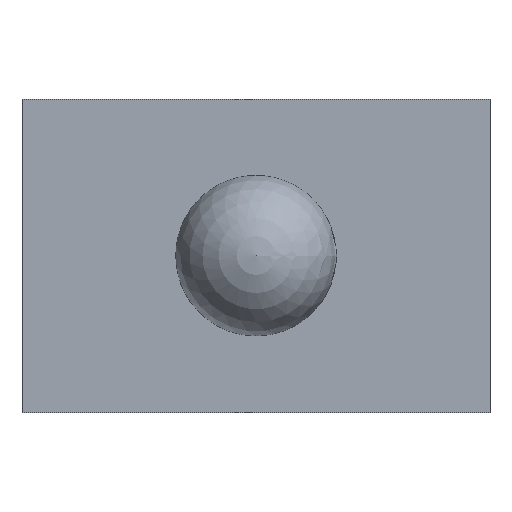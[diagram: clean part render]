
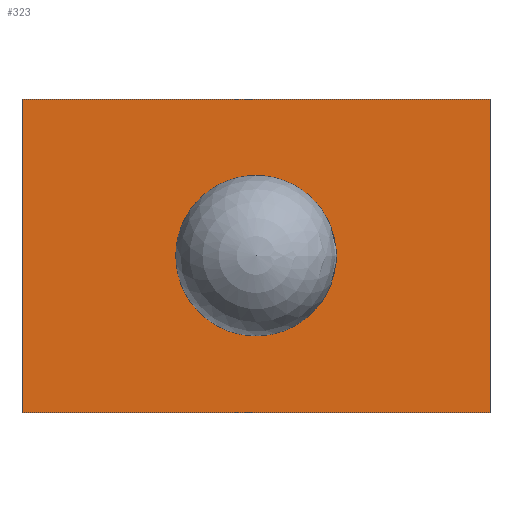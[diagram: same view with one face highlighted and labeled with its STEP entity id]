
A CAD part, top view. The second image highlights one B-rep face of the part: STEP entity #323.
In plain terms, the highlighted planar face has unit normal (0, 0, 1).
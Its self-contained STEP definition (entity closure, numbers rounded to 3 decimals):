
#253 = CYLINDRICAL_SURFACE('',#254,5.5);
#254 = AXIS2_PLACEMENT_3D('',#255,#256,#257);
#255 = CARTESIAN_POINT('',(0.,0.,-1.));
#256 = DIRECTION('',(0.,0.,1.));
#257 = DIRECTION('',(1.,0.,0.));
#269 = VERTEX_POINT('',#270);
#270 = CARTESIAN_POINT('',(5.5,0.,-11.));
#293 = EDGE_CURVE('',#269,#269,#294,.T.);
#294 = SURFACE_CURVE('',#295,(#300,#307),.PCURVE_S1.);
#295 = CIRCLE('',#296,5.5);
#296 = AXIS2_PLACEMENT_3D('',#297,#298,#299);
#297 = CARTESIAN_POINT('',(0.,0.,-11.));
#298 = DIRECTION('',(0.,0.,-1.));
#299 = DIRECTION('',(1.,0.,0.));
#300 = PCURVE('',#253,#301);
#301 = DEFINITIONAL_REPRESENTATION('',(#302),#306);
#302 = LINE('',#303,#304);
#303 = CARTESIAN_POINT('',(-0.,-10.));
#304 = VECTOR('',#305,1.);
#305 = DIRECTION('',(-1.,0.));
#306 = ( GEOMETRIC_REPRESENTATION_CONTEXT(2) 
PARAMETRIC_REPRESENTATION_CONTEXT() REPRESENTATION_CONTEXT('2D SPACE',''
  ) );
#307 = PCURVE('',#308,#313);
#308 = PLANE('',#309);
#309 = AXIS2_PLACEMENT_3D('',#310,#311,#312);
#310 = CARTESIAN_POINT('',(0.,0.,-11.));
#311 = DIRECTION('',(0.,0.,1.));
#312 = DIRECTION('',(1.,0.,0.));
#313 = DEFINITIONAL_REPRESENTATION('',(#314),#322);
#314 = ( BOUNDED_CURVE() B_SPLINE_CURVE(2,(#315,#316,#317,#318,#319,#320
,#321),.UNSPECIFIED.,.F.,.F.) B_SPLINE_CURVE_WITH_KNOTS((1,2,2,2,2,1),(
    -2.094,0.,2.094,4.189,6.283,
8.378),.UNSPECIFIED.) CURVE() GEOMETRIC_REPRESENTATION_ITEM() 
RATIONAL_B_SPLINE_CURVE((1.,0.5,1.,0.5,1.,0.5,1.)) REPRESENTATION_ITEM(
  '') );
#315 = CARTESIAN_POINT('',(5.5,0.));
#316 = CARTESIAN_POINT('',(5.5,-9.526));
#317 = CARTESIAN_POINT('',(-2.75,-4.763));
#318 = CARTESIAN_POINT('',(-11.,0.));
#319 = CARTESIAN_POINT('',(-2.75,4.763));
#320 = CARTESIAN_POINT('',(5.5,9.526));
#321 = CARTESIAN_POINT('',(5.5,0.));
#322 = ( GEOMETRIC_REPRESENTATION_CONTEXT(2) 
PARAMETRIC_REPRESENTATION_CONTEXT() REPRESENTATION_CONTEXT('2D SPACE',''
  ) );
#323 = ADVANCED_FACE('',(#324,#438),#308,.T.);
#324 = FACE_BOUND('',#325,.T.);
#325 = EDGE_LOOP('',(#326,#356,#384,#412));
#326 = ORIENTED_EDGE('',*,*,#327,.T.);
#327 = EDGE_CURVE('',#328,#330,#332,.T.);
#328 = VERTEX_POINT('',#329);
#329 = CARTESIAN_POINT('',(-48.5,-32.5,-11.));
#330 = VERTEX_POINT('',#331);
#331 = CARTESIAN_POINT('',(48.5,-32.5,-11.));
#332 = SURFACE_CURVE('',#333,(#337,#344),.PCURVE_S1.);
#333 = LINE('',#334,#335);
#334 = CARTESIAN_POINT('',(-48.5,-32.5,-11.));
#335 = VECTOR('',#336,1.);
#336 = DIRECTION('',(1.,0.,0.));
#337 = PCURVE('',#308,#338);
#338 = DEFINITIONAL_REPRESENTATION('',(#339),#343);
#339 = LINE('',#340,#341);
#340 = CARTESIAN_POINT('',(-48.5,-32.5));
#341 = VECTOR('',#342,1.);
#342 = DIRECTION('',(1.,0.));
#343 = ( GEOMETRIC_REPRESENTATION_CONTEXT(2) 
PARAMETRIC_REPRESENTATION_CONTEXT() REPRESENTATION_CONTEXT('2D SPACE',''
  ) );
#344 = PCURVE('',#345,#350);
#345 = PLANE('',#346);
#346 = AXIS2_PLACEMENT_3D('',#347,#348,#349);
#347 = CARTESIAN_POINT('',(-48.5,-32.5,-11.));
#348 = DIRECTION('',(0.,-1.,0.));
#349 = DIRECTION('',(1.,0.,0.));
#350 = DEFINITIONAL_REPRESENTATION('',(#351),#355);
#351 = LINE('',#352,#353);
#352 = CARTESIAN_POINT('',(0.,0.));
#353 = VECTOR('',#354,1.);
#354 = DIRECTION('',(1.,0.));
#355 = ( GEOMETRIC_REPRESENTATION_CONTEXT(2) 
PARAMETRIC_REPRESENTATION_CONTEXT() REPRESENTATION_CONTEXT('2D SPACE',''
  ) );
#356 = ORIENTED_EDGE('',*,*,#357,.T.);
#357 = EDGE_CURVE('',#330,#358,#360,.T.);
#358 = VERTEX_POINT('',#359);
#359 = CARTESIAN_POINT('',(48.5,32.5,-11.));
#360 = SURFACE_CURVE('',#361,(#365,#372),.PCURVE_S1.);
#361 = LINE('',#362,#363);
#362 = CARTESIAN_POINT('',(48.5,-32.5,-11.));
#363 = VECTOR('',#364,1.);
#364 = DIRECTION('',(0.,1.,0.));
#365 = PCURVE('',#308,#366);
#366 = DEFINITIONAL_REPRESENTATION('',(#367),#371);
#367 = LINE('',#368,#369);
#368 = CARTESIAN_POINT('',(48.5,-32.5));
#369 = VECTOR('',#370,1.);
#370 = DIRECTION('',(0.,1.));
#371 = ( GEOMETRIC_REPRESENTATION_CONTEXT(2) 
PARAMETRIC_REPRESENTATION_CONTEXT() REPRESENTATION_CONTEXT('2D SPACE',''
  ) );
#372 = PCURVE('',#373,#378);
#373 = PLANE('',#374);
#374 = AXIS2_PLACEMENT_3D('',#375,#376,#377);
#375 = CARTESIAN_POINT('',(48.5,-32.5,-11.));
#376 = DIRECTION('',(1.,0.,0.));
#377 = DIRECTION('',(0.,1.,0.));
#378 = DEFINITIONAL_REPRESENTATION('',(#379),#383);
#379 = LINE('',#380,#381);
#380 = CARTESIAN_POINT('',(0.,0.));
#381 = VECTOR('',#382,1.);
#382 = DIRECTION('',(1.,0.));
#383 = ( GEOMETRIC_REPRESENTATION_CONTEXT(2) 
PARAMETRIC_REPRESENTATION_CONTEXT() REPRESENTATION_CONTEXT('2D SPACE',''
  ) );
#384 = ORIENTED_EDGE('',*,*,#385,.T.);
#385 = EDGE_CURVE('',#358,#386,#388,.T.);
#386 = VERTEX_POINT('',#387);
#387 = CARTESIAN_POINT('',(-48.5,32.5,-11.));
#388 = SURFACE_CURVE('',#389,(#393,#400),.PCURVE_S1.);
#389 = LINE('',#390,#391);
#390 = CARTESIAN_POINT('',(48.5,32.5,-11.));
#391 = VECTOR('',#392,1.);
#392 = DIRECTION('',(-1.,0.,0.));
#393 = PCURVE('',#308,#394);
#394 = DEFINITIONAL_REPRESENTATION('',(#395),#399);
#395 = LINE('',#396,#397);
#396 = CARTESIAN_POINT('',(48.5,32.5));
#397 = VECTOR('',#398,1.);
#398 = DIRECTION('',(-1.,0.));
#399 = ( GEOMETRIC_REPRESENTATION_CONTEXT(2) 
PARAMETRIC_REPRESENTATION_CONTEXT() REPRESENTATION_CONTEXT('2D SPACE',''
  ) );
#400 = PCURVE('',#401,#406);
#401 = PLANE('',#402);
#402 = AXIS2_PLACEMENT_3D('',#403,#404,#405);
#403 = CARTESIAN_POINT('',(48.5,32.5,-11.));
#404 = DIRECTION('',(0.,1.,0.));
#405 = DIRECTION('',(-1.,0.,0.));
#406 = DEFINITIONAL_REPRESENTATION('',(#407),#411);
#407 = LINE('',#408,#409);
#408 = CARTESIAN_POINT('',(0.,0.));
#409 = VECTOR('',#410,1.);
#410 = DIRECTION('',(1.,0.));
#411 = ( GEOMETRIC_REPRESENTATION_CONTEXT(2) 
PARAMETRIC_REPRESENTATION_CONTEXT() REPRESENTATION_CONTEXT('2D SPACE',''
  ) );
#412 = ORIENTED_EDGE('',*,*,#413,.T.);
#413 = EDGE_CURVE('',#386,#328,#414,.T.);
#414 = SURFACE_CURVE('',#415,(#419,#426),.PCURVE_S1.);
#415 = LINE('',#416,#417);
#416 = CARTESIAN_POINT('',(-48.5,32.5,-11.));
#417 = VECTOR('',#418,1.);
#418 = DIRECTION('',(0.,-1.,0.));
#419 = PCURVE('',#308,#420);
#420 = DEFINITIONAL_REPRESENTATION('',(#421),#425);
#421 = LINE('',#422,#423);
#422 = CARTESIAN_POINT('',(-48.5,32.5));
#423 = VECTOR('',#424,1.);
#424 = DIRECTION('',(0.,-1.));
#425 = ( GEOMETRIC_REPRESENTATION_CONTEXT(2) 
PARAMETRIC_REPRESENTATION_CONTEXT() REPRESENTATION_CONTEXT('2D SPACE',''
  ) );
#426 = PCURVE('',#427,#432);
#427 = PLANE('',#428);
#428 = AXIS2_PLACEMENT_3D('',#429,#430,#431);
#429 = CARTESIAN_POINT('',(-48.5,32.5,-11.));
#430 = DIRECTION('',(-1.,-0.,-0.));
#431 = DIRECTION('',(0.,-1.,0.));
#432 = DEFINITIONAL_REPRESENTATION('',(#433),#437);
#433 = LINE('',#434,#435);
#434 = CARTESIAN_POINT('',(0.,0.));
#435 = VECTOR('',#436,1.);
#436 = DIRECTION('',(1.,0.));
#437 = ( GEOMETRIC_REPRESENTATION_CONTEXT(2) 
PARAMETRIC_REPRESENTATION_CONTEXT() REPRESENTATION_CONTEXT('2D SPACE',''
  ) );
#438 = FACE_BOUND('',#439,.T.);
#439 = EDGE_LOOP('',(#440));
#440 = ORIENTED_EDGE('',*,*,#293,.T.);
